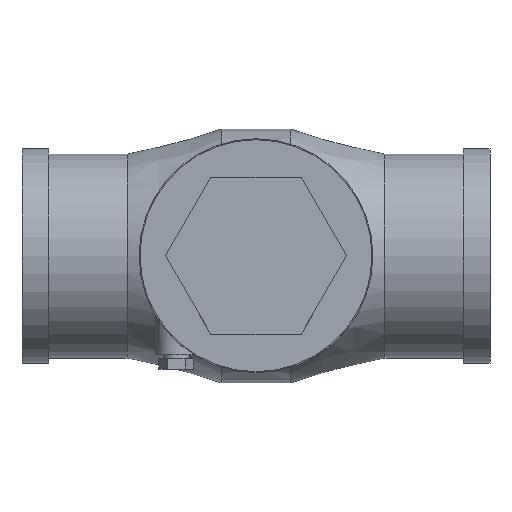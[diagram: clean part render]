
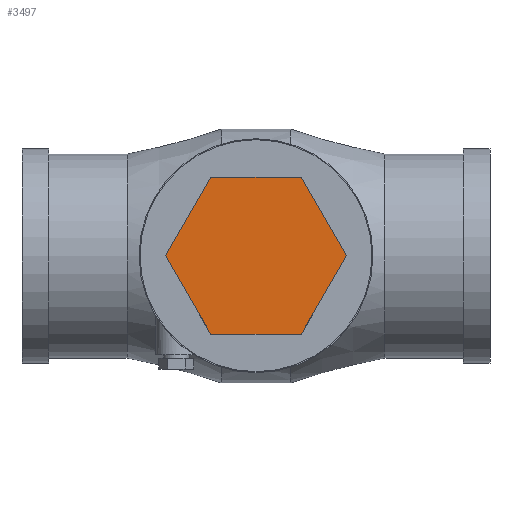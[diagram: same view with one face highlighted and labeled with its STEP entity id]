
A CAD part, top view. The second image highlights one B-rep face of the part: STEP entity #3497.
In plain terms, the highlighted planar face has unit normal (0, 0, 1).
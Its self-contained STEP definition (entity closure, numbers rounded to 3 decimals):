
#760 = PLANE('',#761);
#761 = AXIS2_PLACEMENT_3D('',#762,#763,#764);
#762 = CARTESIAN_POINT('',(2.73,-0.915,2.175));
#763 = DIRECTION('',(0.,-1.,0.));
#764 = DIRECTION('',(1.,0.,0.));
#788 = PLANE('',#789);
#789 = AXIS2_PLACEMENT_3D('',#790,#791,#792);
#790 = CARTESIAN_POINT('',(1.938,-0.458,2.175));
#791 = DIRECTION('',(-0.866,-0.5,0.));
#792 = DIRECTION('',(0.5,-0.866,0.));
#816 = PLANE('',#817);
#817 = AXIS2_PLACEMENT_3D('',#818,#819,#820);
#818 = CARTESIAN_POINT('',(1.938,0.458,2.175));
#819 = DIRECTION('',(-0.866,0.5,0.));
#820 = DIRECTION('',(-0.5,-0.866,0.));
#844 = PLANE('',#845);
#845 = AXIS2_PLACEMENT_3D('',#846,#847,#848);
#846 = CARTESIAN_POINT('',(2.73,0.915,2.175));
#847 = DIRECTION('',(0.,1.,0.));
#848 = DIRECTION('',(-1.,0.,0.));
#872 = PLANE('',#873);
#873 = AXIS2_PLACEMENT_3D('',#874,#875,#876);
#874 = CARTESIAN_POINT('',(3.522,0.458,2.175));
#875 = DIRECTION('',(0.866,0.5,0.));
#876 = DIRECTION('',(-0.5,0.866,0.));
#898 = PLANE('',#899);
#899 = AXIS2_PLACEMENT_3D('',#900,#901,#902);
#900 = CARTESIAN_POINT('',(3.522,-0.458,2.175));
#901 = DIRECTION('',(0.866,-0.5,0.));
#902 = DIRECTION('',(0.5,0.866,0.));
#3202 = EDGE_CURVE('',#3203,#3205,#3207,.T.);
#3203 = VERTEX_POINT('',#3204);
#3204 = CARTESIAN_POINT('',(3.258,-0.915,2.68));
#3205 = VERTEX_POINT('',#3206);
#3206 = CARTESIAN_POINT('',(2.202,-0.915,2.68));
#3207 = SURFACE_CURVE('',#3208,(#3212,#3219),.PCURVE_S1.);
#3208 = LINE('',#3209,#3210);
#3209 = CARTESIAN_POINT('',(2.202,-0.915,2.68));
#3210 = VECTOR('',#3211,1.);
#3211 = DIRECTION('',(-1.,0.,0.));
#3212 = PCURVE('',#760,#3213);
#3213 = DEFINITIONAL_REPRESENTATION('',(#3214),#3218);
#3214 = LINE('',#3215,#3216);
#3215 = CARTESIAN_POINT('',(-0.528,0.505));
#3216 = VECTOR('',#3217,1.);
#3217 = DIRECTION('',(-1.,0.));
#3218 = ( GEOMETRIC_REPRESENTATION_CONTEXT(2) 
PARAMETRIC_REPRESENTATION_CONTEXT() REPRESENTATION_CONTEXT('2D SPACE',''
  ) );
#3219 = PCURVE('',#3220,#3225);
#3220 = PLANE('',#3221);
#3221 = AXIS2_PLACEMENT_3D('',#3222,#3223,#3224);
#3222 = CARTESIAN_POINT('',(2.73,0.,2.68));
#3223 = DIRECTION('',(0.,0.,1.));
#3224 = DIRECTION('',(1.,0.,-0.));
#3225 = DEFINITIONAL_REPRESENTATION('',(#3226),#3230);
#3226 = LINE('',#3227,#3228);
#3227 = CARTESIAN_POINT('',(-0.528,-0.915));
#3228 = VECTOR('',#3229,1.);
#3229 = DIRECTION('',(-1.,0.));
#3230 = ( GEOMETRIC_REPRESENTATION_CONTEXT(2) 
PARAMETRIC_REPRESENTATION_CONTEXT() REPRESENTATION_CONTEXT('2D SPACE',''
  ) );
#3278 = EDGE_CURVE('',#3205,#3279,#3281,.T.);
#3279 = VERTEX_POINT('',#3280);
#3280 = CARTESIAN_POINT('',(1.673,0.,2.68));
#3281 = SURFACE_CURVE('',#3282,(#3286,#3293),.PCURVE_S1.);
#3282 = LINE('',#3283,#3284);
#3283 = CARTESIAN_POINT('',(1.673,0.,2.68));
#3284 = VECTOR('',#3285,1.);
#3285 = DIRECTION('',(-0.5,0.866,0.));
#3286 = PCURVE('',#788,#3287);
#3287 = DEFINITIONAL_REPRESENTATION('',(#3288),#3292);
#3288 = LINE('',#3289,#3290);
#3289 = CARTESIAN_POINT('',(-0.528,0.505));
#3290 = VECTOR('',#3291,1.);
#3291 = DIRECTION('',(-1.,0.));
#3292 = ( GEOMETRIC_REPRESENTATION_CONTEXT(2) 
PARAMETRIC_REPRESENTATION_CONTEXT() REPRESENTATION_CONTEXT('2D SPACE',''
  ) );
#3293 = PCURVE('',#3220,#3294);
#3294 = DEFINITIONAL_REPRESENTATION('',(#3295),#3299);
#3295 = LINE('',#3296,#3297);
#3296 = CARTESIAN_POINT('',(-1.057,0.));
#3297 = VECTOR('',#3298,1.);
#3298 = DIRECTION('',(-0.5,0.866));
#3299 = ( GEOMETRIC_REPRESENTATION_CONTEXT(2) 
PARAMETRIC_REPRESENTATION_CONTEXT() REPRESENTATION_CONTEXT('2D SPACE',''
  ) );
#3327 = EDGE_CURVE('',#3279,#3328,#3330,.T.);
#3328 = VERTEX_POINT('',#3329);
#3329 = CARTESIAN_POINT('',(2.202,0.915,2.68));
#3330 = SURFACE_CURVE('',#3331,(#3335,#3342),.PCURVE_S1.);
#3331 = LINE('',#3332,#3333);
#3332 = CARTESIAN_POINT('',(2.202,0.915,2.68));
#3333 = VECTOR('',#3334,1.);
#3334 = DIRECTION('',(0.5,0.866,0.));
#3335 = PCURVE('',#816,#3336);
#3336 = DEFINITIONAL_REPRESENTATION('',(#3337),#3341);
#3337 = LINE('',#3338,#3339);
#3338 = CARTESIAN_POINT('',(-0.528,0.505));
#3339 = VECTOR('',#3340,1.);
#3340 = DIRECTION('',(-1.,0.));
#3341 = ( GEOMETRIC_REPRESENTATION_CONTEXT(2) 
PARAMETRIC_REPRESENTATION_CONTEXT() REPRESENTATION_CONTEXT('2D SPACE',''
  ) );
#3342 = PCURVE('',#3220,#3343);
#3343 = DEFINITIONAL_REPRESENTATION('',(#3344),#3348);
#3344 = LINE('',#3345,#3346);
#3345 = CARTESIAN_POINT('',(-0.528,0.915));
#3346 = VECTOR('',#3347,1.);
#3347 = DIRECTION('',(0.5,0.866));
#3348 = ( GEOMETRIC_REPRESENTATION_CONTEXT(2) 
PARAMETRIC_REPRESENTATION_CONTEXT() REPRESENTATION_CONTEXT('2D SPACE',''
  ) );
#3376 = EDGE_CURVE('',#3328,#3377,#3379,.T.);
#3377 = VERTEX_POINT('',#3378);
#3378 = CARTESIAN_POINT('',(3.258,0.915,2.68));
#3379 = SURFACE_CURVE('',#3380,(#3384,#3391),.PCURVE_S1.);
#3380 = LINE('',#3381,#3382);
#3381 = CARTESIAN_POINT('',(3.258,0.915,2.68));
#3382 = VECTOR('',#3383,1.);
#3383 = DIRECTION('',(1.,0.,0.));
#3384 = PCURVE('',#844,#3385);
#3385 = DEFINITIONAL_REPRESENTATION('',(#3386),#3390);
#3386 = LINE('',#3387,#3388);
#3387 = CARTESIAN_POINT('',(-0.528,0.505));
#3388 = VECTOR('',#3389,1.);
#3389 = DIRECTION('',(-1.,0.));
#3390 = ( GEOMETRIC_REPRESENTATION_CONTEXT(2) 
PARAMETRIC_REPRESENTATION_CONTEXT() REPRESENTATION_CONTEXT('2D SPACE',''
  ) );
#3391 = PCURVE('',#3220,#3392);
#3392 = DEFINITIONAL_REPRESENTATION('',(#3393),#3397);
#3393 = LINE('',#3394,#3395);
#3394 = CARTESIAN_POINT('',(0.528,0.915));
#3395 = VECTOR('',#3396,1.);
#3396 = DIRECTION('',(1.,0.));
#3397 = ( GEOMETRIC_REPRESENTATION_CONTEXT(2) 
PARAMETRIC_REPRESENTATION_CONTEXT() REPRESENTATION_CONTEXT('2D SPACE',''
  ) );
#3425 = EDGE_CURVE('',#3377,#3426,#3428,.T.);
#3426 = VERTEX_POINT('',#3427);
#3427 = CARTESIAN_POINT('',(3.787,0.,2.68));
#3428 = SURFACE_CURVE('',#3429,(#3433,#3440),.PCURVE_S1.);
#3429 = LINE('',#3430,#3431);
#3430 = CARTESIAN_POINT('',(3.787,0.,2.68));
#3431 = VECTOR('',#3432,1.);
#3432 = DIRECTION('',(0.5,-0.866,0.));
#3433 = PCURVE('',#872,#3434);
#3434 = DEFINITIONAL_REPRESENTATION('',(#3435),#3439);
#3435 = LINE('',#3436,#3437);
#3436 = CARTESIAN_POINT('',(-0.528,0.505));
#3437 = VECTOR('',#3438,1.);
#3438 = DIRECTION('',(-1.,0.));
#3439 = ( GEOMETRIC_REPRESENTATION_CONTEXT(2) 
PARAMETRIC_REPRESENTATION_CONTEXT() REPRESENTATION_CONTEXT('2D SPACE',''
  ) );
#3440 = PCURVE('',#3220,#3441);
#3441 = DEFINITIONAL_REPRESENTATION('',(#3442),#3446);
#3442 = LINE('',#3443,#3444);
#3443 = CARTESIAN_POINT('',(1.057,0.));
#3444 = VECTOR('',#3445,1.);
#3445 = DIRECTION('',(0.5,-0.866));
#3446 = ( GEOMETRIC_REPRESENTATION_CONTEXT(2) 
PARAMETRIC_REPRESENTATION_CONTEXT() REPRESENTATION_CONTEXT('2D SPACE',''
  ) );
#3474 = EDGE_CURVE('',#3426,#3203,#3475,.T.);
#3475 = SURFACE_CURVE('',#3476,(#3480,#3487),.PCURVE_S1.);
#3476 = LINE('',#3477,#3478);
#3477 = CARTESIAN_POINT('',(3.258,-0.915,2.68));
#3478 = VECTOR('',#3479,1.);
#3479 = DIRECTION('',(-0.5,-0.866,0.));
#3480 = PCURVE('',#898,#3481);
#3481 = DEFINITIONAL_REPRESENTATION('',(#3482),#3486);
#3482 = LINE('',#3483,#3484);
#3483 = CARTESIAN_POINT('',(-0.528,0.505));
#3484 = VECTOR('',#3485,1.);
#3485 = DIRECTION('',(-1.,0.));
#3486 = ( GEOMETRIC_REPRESENTATION_CONTEXT(2) 
PARAMETRIC_REPRESENTATION_CONTEXT() REPRESENTATION_CONTEXT('2D SPACE',''
  ) );
#3487 = PCURVE('',#3220,#3488);
#3488 = DEFINITIONAL_REPRESENTATION('',(#3489),#3493);
#3489 = LINE('',#3490,#3491);
#3490 = CARTESIAN_POINT('',(0.528,-0.915));
#3491 = VECTOR('',#3492,1.);
#3492 = DIRECTION('',(-0.5,-0.866));
#3493 = ( GEOMETRIC_REPRESENTATION_CONTEXT(2) 
PARAMETRIC_REPRESENTATION_CONTEXT() REPRESENTATION_CONTEXT('2D SPACE',''
  ) );
#3497 = ADVANCED_FACE('',(#3498),#3220,.T.);
#3498 = FACE_BOUND('',#3499,.T.);
#3499 = EDGE_LOOP('',(#3500,#3501,#3502,#3503,#3504,#3505));
#3500 = ORIENTED_EDGE('',*,*,#3202,.F.);
#3501 = ORIENTED_EDGE('',*,*,#3474,.F.);
#3502 = ORIENTED_EDGE('',*,*,#3425,.F.);
#3503 = ORIENTED_EDGE('',*,*,#3376,.F.);
#3504 = ORIENTED_EDGE('',*,*,#3327,.F.);
#3505 = ORIENTED_EDGE('',*,*,#3278,.F.);
